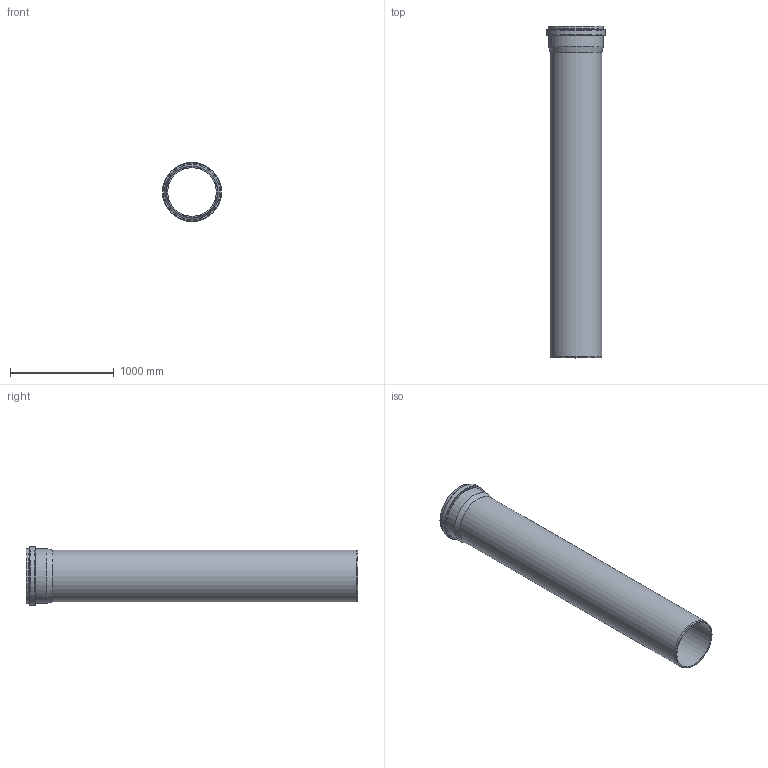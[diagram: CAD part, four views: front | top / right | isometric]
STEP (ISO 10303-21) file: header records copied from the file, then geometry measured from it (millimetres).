
FILE_DESCRIPTION(/* description */ (''),/* implementation_level */ '2;1');
FILE_NAME(/* name */ '771070z.stp',/* time_stamp */ '2025-10-07T12:20:25+02:00',/* author */ ('corinna'),/* organization */ (''),/* preprocessor_version */ 'ST-DEVELOPER v20',/* originating_system */ 'Autodesk Inventor 2024',/* authorisation */ '');
FILE_SCHEMA (('AUTOMOTIVE_DESIGN { 1 0 10303 214 3 1 1 }'));
Length unit declared in the file: millimetre
Products named in the file (1): 771070z
Bounding box: 569 x 3200 x 569 mm (x, y, z)
Volume: 80199851 mm3; surface area: 9909269.2 mm2
Topology: 1 solids, 1 shells, 33 faces, 88 edges, 57 vertices
Faces by surface type: torus 13, cone 10, cylinder 8, plane 2
Full cylindrical faces by diameter (mm): 467 x1, 500 x1, 503.5 x1, 504.5 x1, 530 x1, 530.5 x1, 535 x1, 569 x1
Entity records: 1119 total; most frequent: DIRECTION 226, CARTESIAN_POINT 179, ORIENTED_EDGE 176, AXIS2_PLACEMENT_3D 104, EDGE_CURVE 88, CIRCLE 70, VERTEX_POINT 57, EDGE_LOOP 35
